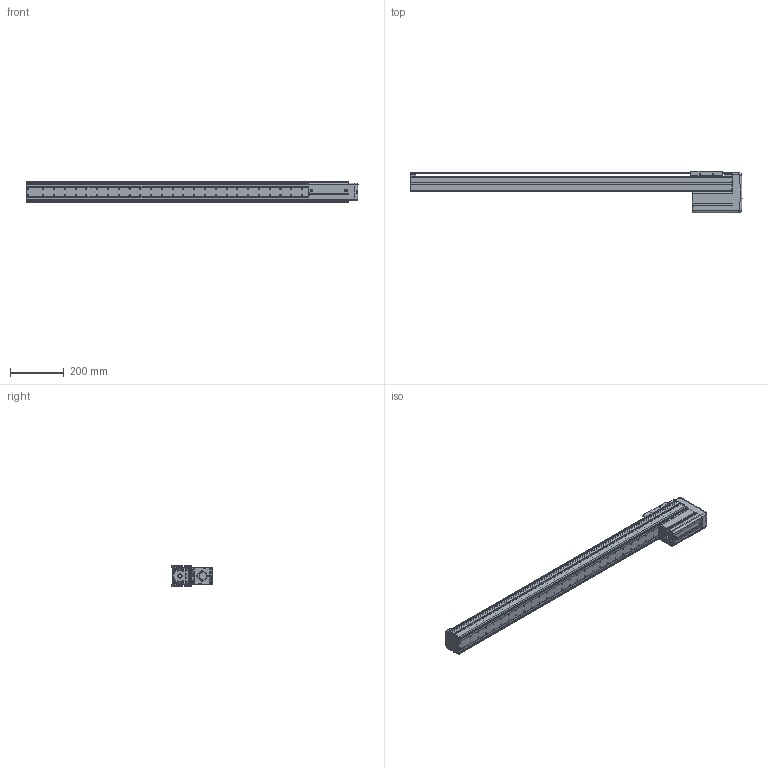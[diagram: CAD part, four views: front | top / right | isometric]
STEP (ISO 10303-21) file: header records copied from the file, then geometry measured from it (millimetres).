
FILE_DESCRIPTION((''),'2;1');
FILE_NAME('BE10E-UU-M_N-A0_IGS_PRT','2017-06-17T',(' '),(''),'PRO/ENGINEER BY PARAMETRIC TECHNOLOGY CORPORATION, 2015030','PRO/ENGINEER BY PARAMETRIC TECHNOLOGY CORPORATION, 2015030','');
FILE_SCHEMA(('CONFIG_CONTROL_DESIGN'));
Length unit declared in the file: millimetre
Products named in the file (1): BE10E-UU-M_N-A0_IGS_PRT
Bounding box: 1231.42 x 153 x 78 mm (x, y, z)
Volume: 1671687.6 mm3; surface area: 1125600.5 mm2
Topology: 2 solids, 135 shells, 1895 faces, 5138 edges, 3348 vertices
Faces by surface type: cylinder 937, plane 730, cone 81, torus 69, sphere 44, bspline 34
Entity records: 62215 total; most frequent: CARTESIAN_POINT 13233, DIRECTION 10616, ORIENTED_EDGE 9682, EDGE_CURVE 5098, AXIS2_PLACEMENT_3D 3990, VERTEX_POINT 3348, VECTOR 2636, LINE 2636
